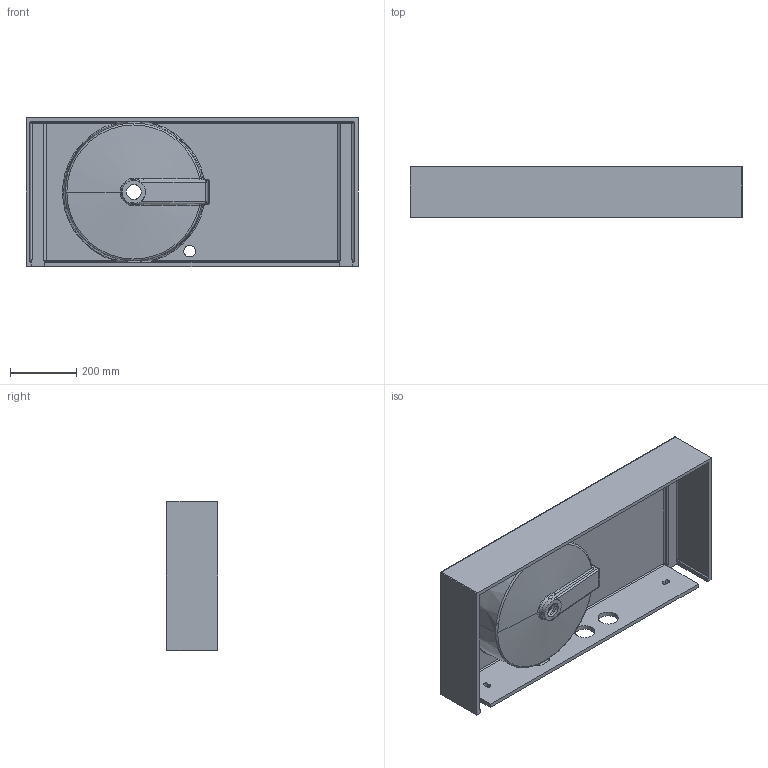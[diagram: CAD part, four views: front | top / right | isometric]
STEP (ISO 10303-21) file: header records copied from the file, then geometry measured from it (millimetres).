
FILE_DESCRIPTION (( 'STEP AP203' ), '1' );
FILE_NAME ('ken-1000×ó.STEP', '2015-10-27T15:56:49', ( 'admin' ), ( '' ), 'SwSTEP 2.0', 'SolidWorks 2014', '' );
FILE_SCHEMA (( 'CONFIG_CONTROL_DESIGN' ));
Length unit declared in the file: millimetre
Products named in the file (1): ken-1000酘
Bounding box: 1000 x 155 x 450 mm (x, y, z)
Volume: 13045087.3 mm3; surface area: 1979596.6 mm2
Topology: 1 solids, 1 shells, 179 faces, 445 edges, 252 vertices
Faces by surface type: cylinder 64, plane 42, bspline 29, sphere 18, torus 14, cone 12
Entity records: 7560 total; most frequent: CARTESIAN_POINT 3554, ORIENTED_EDGE 862, DIRECTION 793, EDGE_CURVE 431, AXIS2_PLACEMENT_3D 310, VERTEX_POINT 252, EDGE_LOOP 191, ADVANCED_FACE 179
